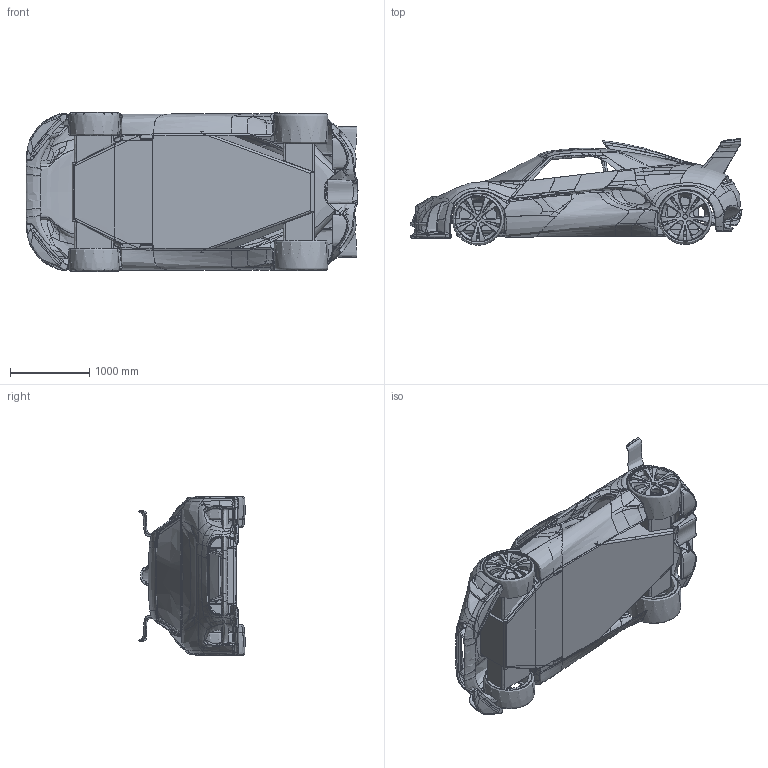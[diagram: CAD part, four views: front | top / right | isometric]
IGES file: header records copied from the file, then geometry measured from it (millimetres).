
Start section:  Autodesk Maya version 8.5 x64 IGES version 5.3
Global section: file name: C:/Users/rg/Desktop/grab_cad/grabster_5002.iges; native system: Autodesk Maya V8.5 x64; preprocessor: 8.5 x64; author: rg; organization: Unknown; date: 20120410.085342; units: centimetre
Bounding box: 4195.66 x 1342.72 x 2013.99 mm (x, y, z)
Surface area: 58469182.3 mm2 (no closed solid volume)
Topology: 0 solids, 0 shells, 1414 faces, 10119 edges, 10039 vertices
Faces by surface type: bspline 1414
